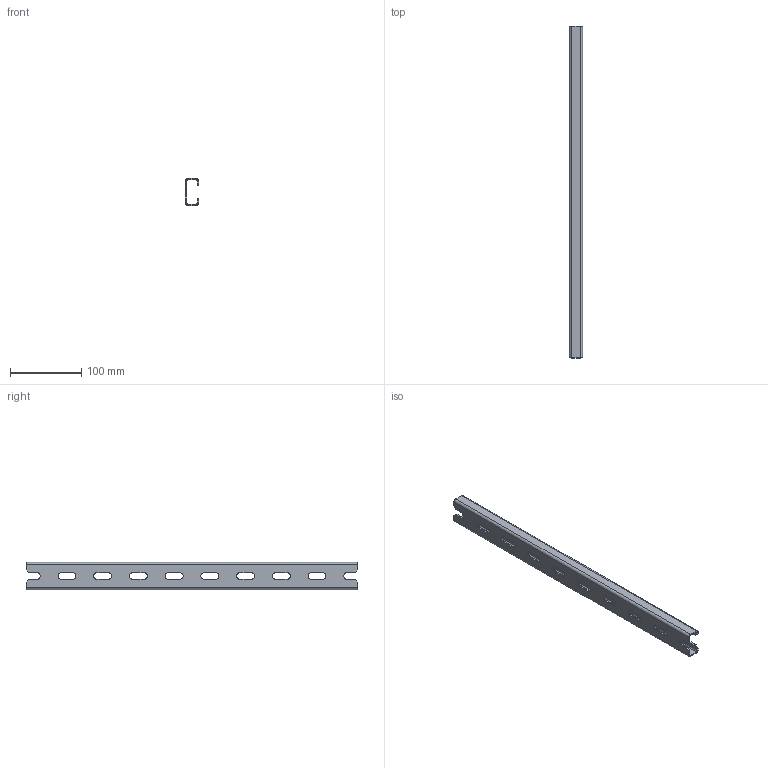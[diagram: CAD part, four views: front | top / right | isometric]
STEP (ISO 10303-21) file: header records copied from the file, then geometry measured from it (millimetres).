
FILE_DESCRIPTION (( 'STEP AP203' ), '1' );
FILE_NAME ('MG 50.04 C Òðàâåðñà ìîíòàæíàÿ.STEP', '2013-01-09T05:33:56', ( 'System' ), ( '' ), 'SwSTEP 2.0', 'SolidWorks 2012', '' );
FILE_SCHEMA (( 'CONFIG_CONTROL_DESIGN' ));
Length unit declared in the file: millimetre
Products named in the file (1): MG 50.04 C Òðàâåðñà ìîíòàæíàÿ
Bounding box: 18.5 x 464.5 x 38 mm (x, y, z)
Volume: 73638.6 mm3; surface area: 76900.9 mm2
Topology: 1 solids, 1 shells, 86 faces, 220 edges, 136 vertices
Faces by surface type: plane 60, cylinder 26
Entity records: 2669 total; most frequent: DIRECTION 446, CARTESIAN_POINT 443, ORIENTED_EDGE 440, EDGE_CURVE 220, LINE 168, VECTOR 168, AXIS2_PLACEMENT_3D 139, VERTEX_POINT 136
